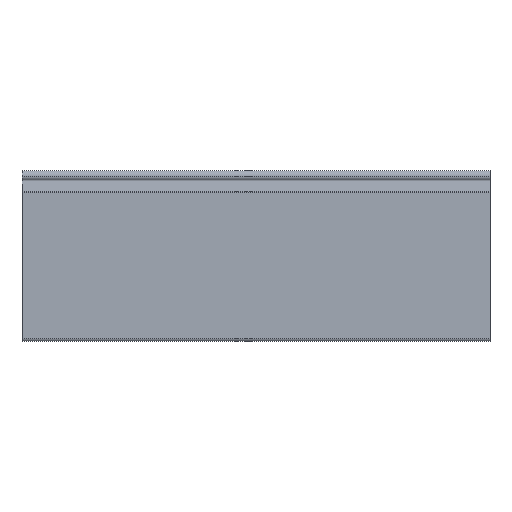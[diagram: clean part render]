
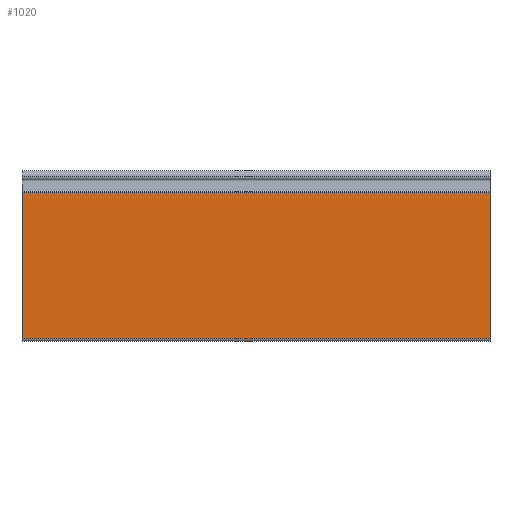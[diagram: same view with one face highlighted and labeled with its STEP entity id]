
A CAD part, top view. The second image highlights one B-rep face of the part: STEP entity #1020.
In plain terms, the highlighted planar face has unit normal (0, 0, 1).
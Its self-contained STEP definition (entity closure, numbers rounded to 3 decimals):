
#9 = ORIENTED_EDGE ( 'NONE', *, *, #376, .T. ) ;
#18 = ORIENTED_EDGE ( 'NONE', *, *, #312, .F. ) ;
#19 = ORIENTED_EDGE ( 'NONE', *, *, #377, .F. ) ;
#20 = ORIENTED_EDGE ( 'NONE', *, *, #364, .T. ) ;
#95 = AXIS2_PLACEMENT_3D ( 'NONE', #564, #567, #568 ) ;
#239 = EDGE_LOOP ( 'NONE', ( #20, #19, #18, #9 ) ) ;
#312 = EDGE_CURVE ( 'NONE', #1207, #1237, #763, .T. ) ;
#364 = EDGE_CURVE ( 'NONE', #1219, #1208, #1058, .T. ) ;
#376 = EDGE_CURVE ( 'NONE', #1207, #1219, #1082, .T. ) ;
#377 = EDGE_CURVE ( 'NONE', #1237, #1208, #1084, .T. ) ;
#499 = CARTESIAN_POINT ( 'NONE',  ( -175., -12.164, 4.05 ) ) ;
#508 = DIRECTION ( 'NONE',  ( 0., -1., 0. ) ) ;
#533 = CARTESIAN_POINT ( 'NONE',  ( 175., -12.164, 4.05 ) ) ;
#534 = DIRECTION ( 'NONE',  ( -1., 0., 0. ) ) ;
#535 = CARTESIAN_POINT ( 'NONE',  ( 175., -121.663, 4.05 ) ) ;
#536 = DIRECTION ( 'NONE',  ( -1., 0., 0. ) ) ;
#564 = CARTESIAN_POINT ( 'NONE',  ( 175., -12.164, 4.05 ) ) ;
#565 = PLANE ( 'NONE',  #95 ) ;
#567 = DIRECTION ( 'NONE',  ( 0., 0., -1. ) ) ;
#568 = DIRECTION ( 'NONE',  ( 0., 1., 0. ) ) ;
#763 = LINE ( 'NONE', #1167, #764 ) ;
#764 = VECTOR ( 'NONE', #1164, 1000. ) ;
#950 = CARTESIAN_POINT ( 'NONE',  ( 175., -12.164, 4.05 ) ) ;
#951 = CARTESIAN_POINT ( 'NONE',  ( -175., -121.663, 4.05 ) ) ;
#962 = CARTESIAN_POINT ( 'NONE',  ( -175., -12.164, 4.05 ) ) ;
#980 = CARTESIAN_POINT ( 'NONE',  ( 175., -121.663, 4.05 ) ) ;
#1020 = ADVANCED_FACE ( 'NONE', ( #1103 ), #565, .F. ) ;
#1056 = VECTOR ( 'NONE', #508, 1000. ) ;
#1058 = LINE ( 'NONE', #499, #1056 ) ;
#1082 = LINE ( 'NONE', #533, #1083 ) ;
#1083 = VECTOR ( 'NONE', #534, 1000. ) ;
#1084 = LINE ( 'NONE', #535, #1085 ) ;
#1085 = VECTOR ( 'NONE', #536, 1000. ) ;
#1103 = FACE_OUTER_BOUND ( 'NONE', #239, .T. ) ;
#1164 = DIRECTION ( 'NONE',  ( 0., -1., 0. ) ) ;
#1167 = CARTESIAN_POINT ( 'NONE',  ( 175., -12.164, 4.05 ) ) ;
#1207 = VERTEX_POINT ( 'NONE', #950 ) ;
#1208 = VERTEX_POINT ( 'NONE', #951 ) ;
#1219 = VERTEX_POINT ( 'NONE', #962 ) ;
#1237 = VERTEX_POINT ( 'NONE', #980 ) ;
